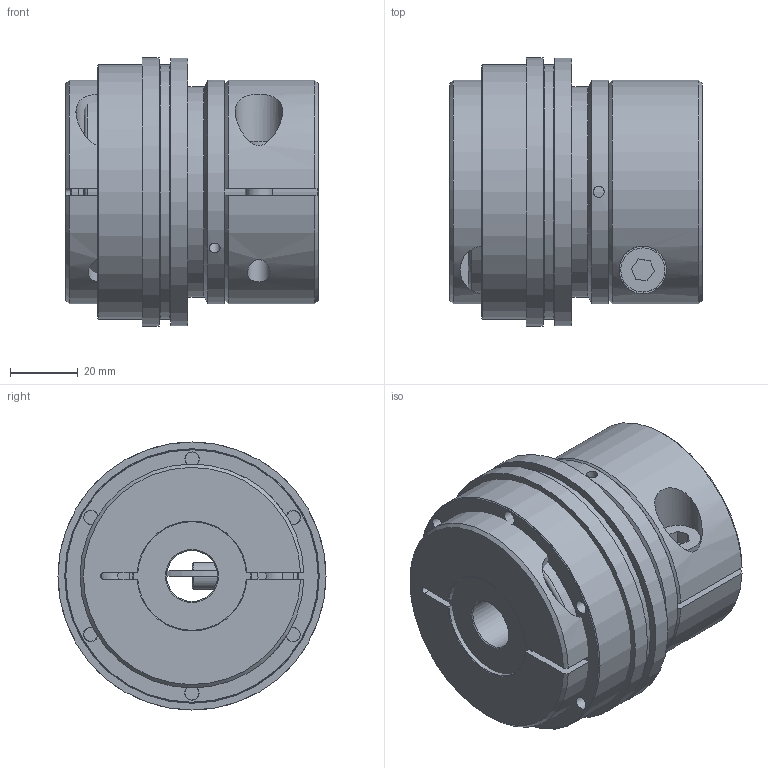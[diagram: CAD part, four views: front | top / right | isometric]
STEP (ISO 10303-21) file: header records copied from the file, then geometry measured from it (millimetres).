
FILE_DESCRIPTION( ( 'Unknown' ), '1' );
FILE_NAME( 'C:/Dokumente und Einstellungen/Sven/Desktop/hp kbk/KBK L-K-60.stp', 'Unknown', ( 'Unknown' ), ( 'Unknown' ), 'XStep 1.0', 'Unknown', ' ' );
FILE_SCHEMA( ( 'automotive_design' ) );
Length unit declared in the file: millimetre
Products named in the file (13): Assem1; Assem2; Assem3; ball_bearing_-_6007_0_01; ball_bearing_-_6007_0_02; ball_bearing_-_6007_0_03; Zylinderschraube DIN 912_4; Stellring 60; Druckring 60; a_35; KBK L-K-60 Grundkörper; Klemmnabe 60; Flansch 60
Bounding box: 74.4 x 79 x 79 mm (x, y, z)
Surface area: 182823 mm2
Topology: 24 solids, 24 shells, 294 faces, 610 edges, 394 vertices
Faces by surface type: plane 112, cylinder 112, cone 45, torus 25
Full cylindrical faces by diameter (mm): 2.5 x4, 3.242 x6, 4 x6, 4.134 x12, 6.647 x2, 8 x3, 8.5 x2, 13 x3, 14 x2, 15 x2, 32 x2, 33 x2, 35 x7, 43.7 x6, 44 x2, 46 x4, 46.5 x2, 53.6 x6, 61.3 x2, 62 x5, 66 x2, 75 x4, 79 x2
Entity records: 3920 total; most frequent: CARTESIAN_POINT 1001, DIRECTION 588, ORIENTED_EDGE 392, AXIS2_PLACEMENT_3D 267, EDGE_LOOP 238, EDGE_CURVE 196, FACE_OUTER_BOUND 179, VERTEX_POINT 164
